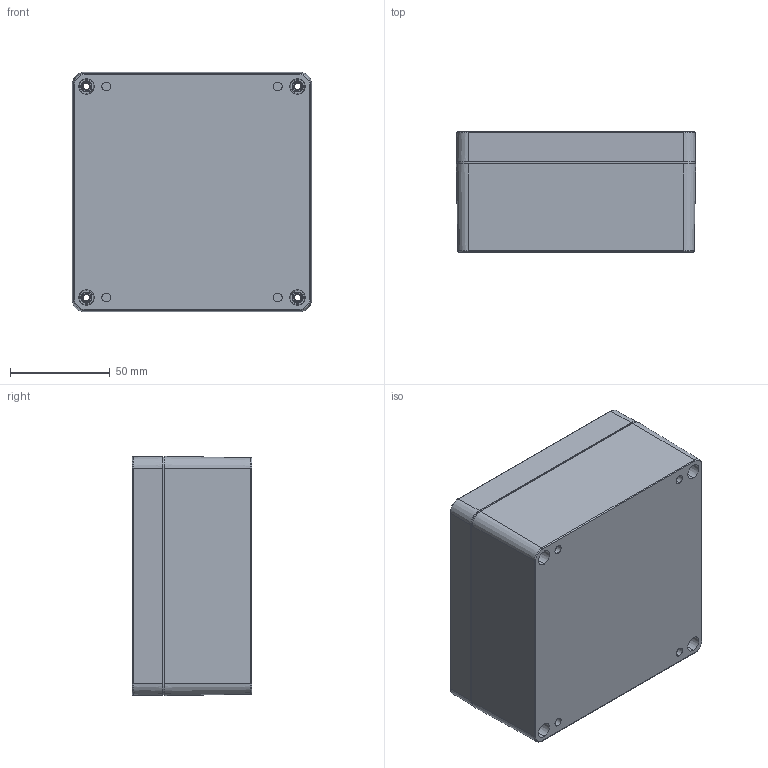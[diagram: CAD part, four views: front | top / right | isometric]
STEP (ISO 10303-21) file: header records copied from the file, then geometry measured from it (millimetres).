
FILE_DESCRIPTION (( 'STEP AP203' ), '1' );
FILE_NAME ('PE230.STEP', '2019-12-04T13:16:36', ( '' ), ( '' ), 'SwSTEP 2.0', 'SolidWorks 2020', '' );
FILE_SCHEMA (( 'CONFIG_CONTROL_DESIGN' ));
Length unit declared in the file: millimetre
Products named in the file (4): PE230
Assembly tree (3 placements, depth 2):
  PE230
    PE230
    PE230
    PE230
Bounding box: 120.17 x 60.2 x 120.17 mm (x, y, z)
Volume: 209762.1 mm3; surface area: 157683.8 mm2
Topology: 11 solids, 11 shells, 1302 faces, 3438 edges, 2228 vertices
Faces by surface type: bspline 440, cylinder 356, plane 280, cone 218, torus 8
Entity records: 45332 total; most frequent: CARTESIAN_POINT 15074, ORIENTED_EDGE 6876, DIRECTION 5410, EDGE_CURVE 3438, VERTEX_POINT 2228, AXIS2_PLACEMENT_3D 1984, LINE 1442, VECTOR 1442
